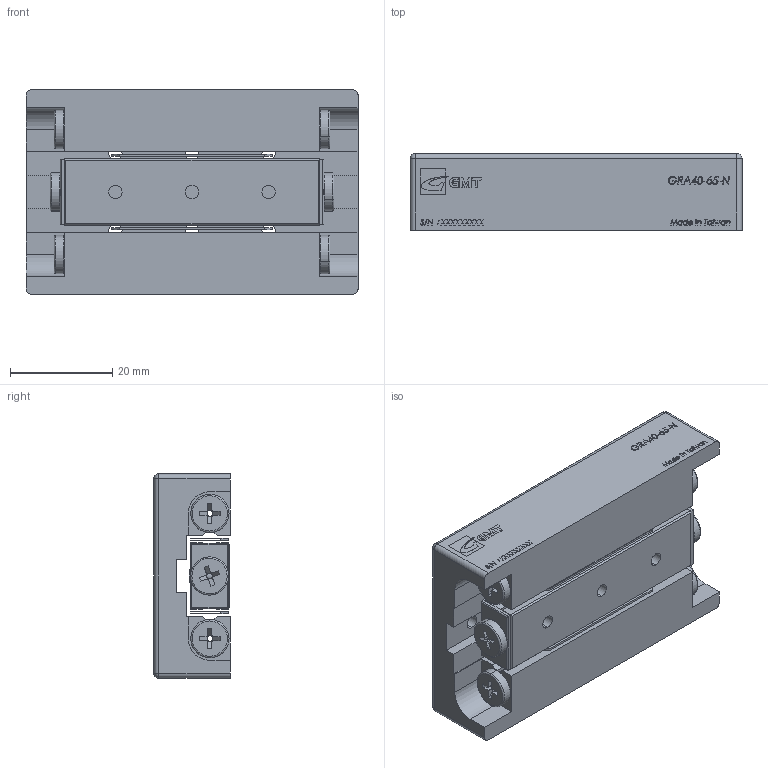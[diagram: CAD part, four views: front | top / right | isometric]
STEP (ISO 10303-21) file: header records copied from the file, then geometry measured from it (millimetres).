
FILE_DESCRIPTION (( 'STEP AP203' ), '1' );
FILE_NAME ('GRA40-65-S.STEP', '2013-12-14T06:08:25', ( '' ), ( '' ), 'SwSTEP 2.0', 'SolidWorks 2013', '' );
FILE_SCHEMA (( 'CONFIG_CONTROL_DESIGN' ));
Length unit declared in the file: millimetre
Products named in the file (1): GRA40-65-S
Bounding box: 65 x 15 x 40 mm (x, y, z)
Surface area: 12760.9 mm2 (no closed solid volume)
Topology: 0 solids, 49 shells, 320 faces, 1914 edges, 1620 vertices
Faces by surface type: plane 215, cylinder 54, torus 24, cone 20, sphere 4, bspline 3
Entity records: 21979 total; most frequent: CARTESIAN_POINT 8116, DIRECTION 2500, ORIENTED_EDGE 2464, EDGE_CURVE 1910, VERTEX_POINT 1620, VECTOR 1260, LINE 1260, AXIS2_PLACEMENT_3D 620
